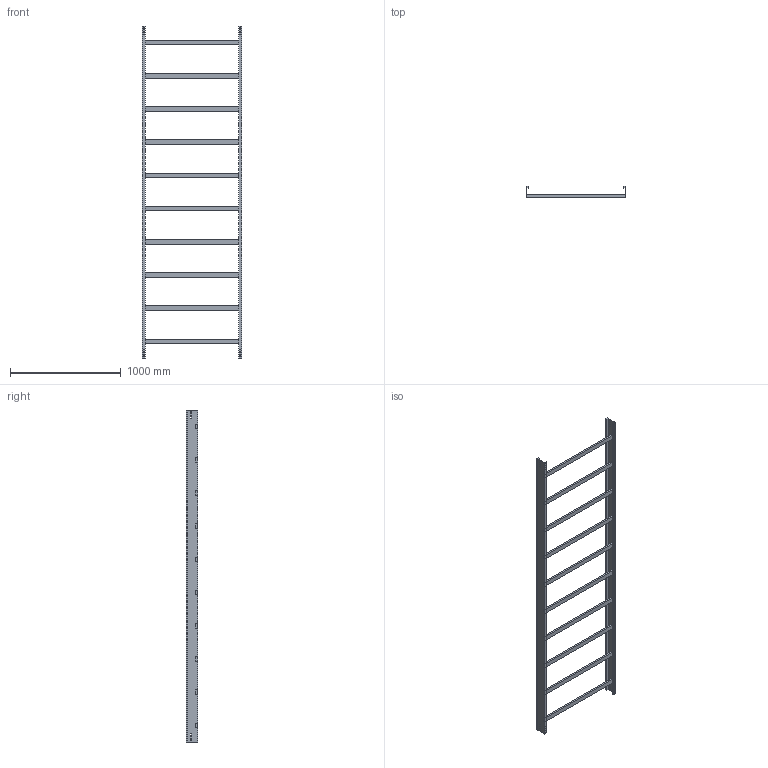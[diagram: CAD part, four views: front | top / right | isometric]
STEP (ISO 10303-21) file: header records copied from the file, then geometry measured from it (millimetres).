
FILE_DESCRIPTION (( 'STEP AP214' ), '1' );
FILE_NAME ('01B3D900.step', '2025-02-21T16:00:02', ( '' ), ( '' ), 'SwSTEP 2.0', 'SolidWorks 2023', '' );
FILE_SCHEMA (( 'AUTOMOTIVE_DESIGN' ));
Length unit declared in the file: millimetre
Products named in the file (3): LONGH.H100; TRAVERSINO_900; 01B3D900
Assembly tree (12 placements, depth 2):
  01B3D900
    LONGH.H100  x2
    TRAVERSINO_900  x10
Bounding box: 900 x 100 x 3000 mm (x, y, z)
Volume: 9904672 mm3; surface area: 2815056 mm2
Topology: 12 solids, 12 shells, 144 faces, 360 edges, 240 vertices
Faces by surface type: plane 144
Entity records: 1696 total; most frequent: CARTESIAN_POINT 283, ORIENTED_EDGE 264, DIRECTION 258, LINE 132, EDGE_CURVE 132, VECTOR 132, VERTEX_POINT 88, EDGE_LOOP 64
